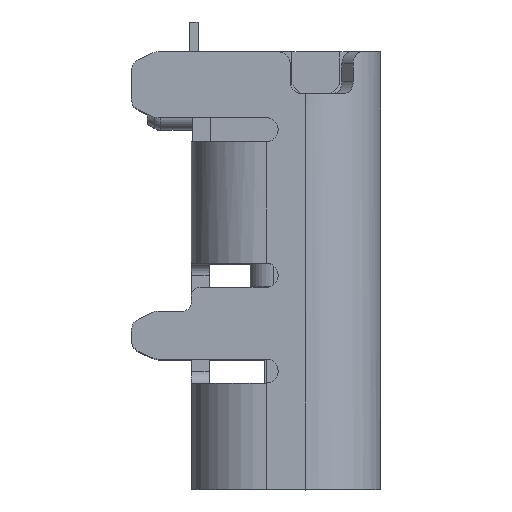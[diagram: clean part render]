
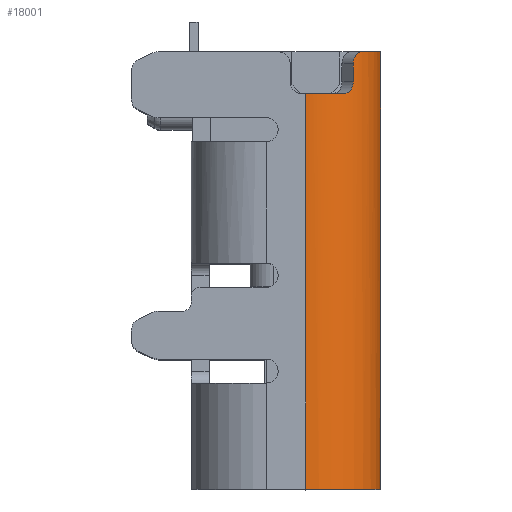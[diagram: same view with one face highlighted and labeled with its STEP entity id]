
A CAD part, top view. The second image highlights one B-rep face of the part: STEP entity #18001.
In plain terms, the highlighted cylindrical face has radius 1.25 mm (diameter 2.5 mm), a partial arc.
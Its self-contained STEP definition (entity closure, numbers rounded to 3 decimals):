
#253 = DIRECTION ( 'NONE',  ( 0.154, 0., 0.988 ) ) ;
#1142 = ORIENTED_EDGE ( 'NONE', *, *, #3837, .F. ) ;
#1143 = EDGE_CURVE ( 'NONE', #15483, #9754, #16775, .T. ) ;
#1598 = CARTESIAN_POINT ( 'NONE',  ( 0.005, 6056937.691, 3.22 ) ) ;
#1630 = CARTESIAN_POINT ( 'NONE',  ( 0.632, 1.8, 4.301 ) ) ;
#2116 = CARTESIAN_POINT ( 'NONE',  ( 0.797, 2.353, 4.187 ) ) ;
#2140 = CARTESIAN_POINT ( 'NONE',  ( 0.005, 1.8, 3.22 ) ) ;
#2415 = VECTOR ( 'NONE', #2492, 1000. ) ;
#2492 = DIRECTION ( 'NONE',  ( 0., -1., 0. ) ) ;
#2605 = CARTESIAN_POINT ( 'NONE',  ( 1.255, 2.5, 3.22 ) ) ;
#2845 = CARTESIAN_POINT ( 'NONE',  ( 0.005, 2.5, 3.22 ) ) ;
#3033 = EDGE_CURVE ( 'NONE', #24334, #22182, #13536, .T. ) ;
#3837 = EDGE_CURVE ( 'NONE', #21232, #20334, #8079, .T. ) ;
#3882 = VERTEX_POINT ( 'NONE', #16661 ) ;
#3942 = CARTESIAN_POINT ( 'NONE',  ( 0.632, 1.8, 4.301 ) ) ;
#3971 = CARTESIAN_POINT ( 'NONE',  ( 0.942, 2.5, 4.048 ) ) ;
#4122 = DIRECTION ( 'NONE',  ( 0., 0., 1. ) ) ;
#4500 = VERTEX_POINT ( 'NONE', #3971 ) ;
#4775 = EDGE_CURVE ( 'NONE', #9754, #3882, #7898, .T. ) ;
#5408 = CARTESIAN_POINT ( 'NONE',  ( 0.678, 1.8, 4.275 ) ) ;
#5454 = DIRECTION ( 'NONE',  ( 0., -1., 0. ) ) ;
#6292 = ORIENTED_EDGE ( 'NONE', *, *, #22032, .T. ) ;
#6588 = EDGE_CURVE ( 'NONE', #19775, #22182, #14802, .T. ) ;
#6762 = AXIS2_PLACEMENT_3D ( 'NONE', #20632, #5454, #7578 ) ;
#6918 = EDGE_LOOP ( 'NONE', ( #14583, #13745, #24587, #1142, #16422, #12311, #18134, #20185, #6292, #13578 ) ) ;
#6952 = DIRECTION ( 'NONE',  ( 0., 0., -1. ) ) ;
#7413 = CIRCLE ( 'NONE', #22912, 1.25 ) ;
#7472 = CARTESIAN_POINT ( 'NONE',  ( 0.005, -4.8, 3.22 ) ) ;
#7578 = DIRECTION ( 'NONE',  ( 0.336, 0., 0.942 ) ) ;
#7668 = CARTESIAN_POINT ( 'NONE',  ( 0.797, 2., 4.187 ) ) ;
#7898 = LINE ( 'NONE', #7668, #19536 ) ;
#8079 = LINE ( 'NONE', #15683, #2415 ) ;
#8216 = DIRECTION ( 'NONE',  ( 0., -1., 0. ) ) ;
#8583 = CYLINDRICAL_SURFACE ( 'NONE', #15373, 1.25 ) ;
#8584 = CARTESIAN_POINT ( 'NONE',  ( 0.198, 1.8, 4.455 ) ) ;
#8821 = B_SPLINE_CURVE_WITH_KNOTS ( 'NONE', 3,
 ( #11938, #2116, #13414, #9829, #20994, #19137 ),
 .UNSPECIFIED., .F., .F.,
 ( 4, 2, 4 ),
 ( 0., 0., 0. ),
 .UNSPECIFIED. ) ;
#9754 = VERTEX_POINT ( 'NONE', #10390 ) ;
#9829 = CARTESIAN_POINT ( 'NONE',  ( 0.869, 2.479, 4.124 ) ) ;
#10313 = DIRECTION ( 'NONE',  ( 1., 0., 0. ) ) ;
#10323 = CIRCLE ( 'NONE', #19851, 1.25 ) ;
#10390 = CARTESIAN_POINT ( 'NONE',  ( 0.797, 2., 4.187 ) ) ;
#10585 = CARTESIAN_POINT ( 'NONE',  ( 0.005, 1.8, 4.47 ) ) ;
#10788 = CIRCLE ( 'NONE', #17530, 1.25 ) ;
#11017 = EDGE_CURVE ( 'NONE', #21232, #4500, #10323, .T. ) ;
#11336 = DIRECTION ( 'NONE',  ( 0., 1., 0. ) ) ;
#11938 = CARTESIAN_POINT ( 'NONE',  ( 0.797, 2.3, 4.187 ) ) ;
#12069 = CARTESIAN_POINT ( 'NONE',  ( 1.255, -4.8, 3.22 ) ) ;
#12311 = ORIENTED_EDGE ( 'NONE', *, *, #20252, .F. ) ;
#12726 = VERTEX_POINT ( 'NONE', #22522 ) ;
#12727 = CARTESIAN_POINT ( 'NONE',  ( 0.005, -4.8, 4.47 ) ) ;
#12729 = CIRCLE ( 'NONE', #6762, 1.25 ) ;
#12895 = CARTESIAN_POINT ( 'NONE',  ( 0.78, 1.895, 4.201 ) ) ;
#13371 = CARTESIAN_POINT ( 'NONE',  ( 0.797, 2., 4.187 ) ) ;
#13414 = CARTESIAN_POINT ( 'NONE',  ( 0.814, 2.405, 4.174 ) ) ;
#13536 = CIRCLE ( 'NONE', #22263, 1.25 ) ;
#13578 = ORIENTED_EDGE ( 'NONE', *, *, #20088, .T. ) ;
#13728 = CARTESIAN_POINT ( 'NONE',  ( 0.005, 1.8, 3.22 ) ) ;
#13745 = ORIENTED_EDGE ( 'NONE', *, *, #6588, .F. ) ;
#14318 = DIRECTION ( 'NONE',  ( 0., 1., 0. ) ) ;
#14583 = ORIENTED_EDGE ( 'NONE', *, *, #3033, .T. ) ;
#14665 = DIRECTION ( 'NONE',  ( 0., -1., 0. ) ) ;
#14802 = LINE ( 'NONE', #22373, #19645 ) ;
#15267 = CARTESIAN_POINT ( 'NONE',  ( 0.797, 1.947, 4.187 ) ) ;
#15373 = AXIS2_PLACEMENT_3D ( 'NONE', #1598, #14665, #6952 ) ;
#15483 = VERTEX_POINT ( 'NONE', #1630 ) ;
#15683 = CARTESIAN_POINT ( 'NONE',  ( 1.255, 2.5, 3.22 ) ) ;
#16422 = ORIENTED_EDGE ( 'NONE', *, *, #11017, .T. ) ;
#16661 = CARTESIAN_POINT ( 'NONE',  ( 0.797, 2.3, 4.187 ) ) ;
#16775 = B_SPLINE_CURVE_WITH_KNOTS ( 'NONE', 3,
 ( #3942, #5408, #20481, #12895, #15267, #13371 ),
 .UNSPECIFIED., .F., .F.,
 ( 4, 2, 4 ),
 ( 0., 0., 0. ),
 .UNSPECIFIED. ) ;
#17530 = AXIS2_PLACEMENT_3D ( 'NONE', #13728, #21300, #19084 ) ;
#17763 = DIRECTION ( 'NONE',  ( 0., -1., 0. ) ) ;
#17818 = EDGE_CURVE ( 'NONE', #19775, #20334, #7413, .T. ) ;
#17913 = FACE_OUTER_BOUND ( 'NONE', #6918, .T. ) ;
#18001 = ADVANCED_FACE ( 'NONE', ( #17913 ), #8583, .T. ) ;
#18134 = ORIENTED_EDGE ( 'NONE', *, *, #4775, .F. ) ;
#19084 = DIRECTION ( 'NONE',  ( 0.502, 0., 0.865 ) ) ;
#19108 = DIRECTION ( 'NONE',  ( 0., 1., 0. ) ) ;
#19137 = CARTESIAN_POINT ( 'NONE',  ( 0.942, 2.5, 4.048 ) ) ;
#19536 = VECTOR ( 'NONE', #19108, 1000. ) ;
#19645 = VECTOR ( 'NONE', #14318, 1000. ) ;
#19775 = VERTEX_POINT ( 'NONE', #12727 ) ;
#19851 = AXIS2_PLACEMENT_3D ( 'NONE', #2845, #17763, #10313 ) ;
#20088 = EDGE_CURVE ( 'NONE', #12726, #24334, #12729, .T. ) ;
#20185 = ORIENTED_EDGE ( 'NONE', *, *, #1143, .F. ) ;
#20252 = EDGE_CURVE ( 'NONE', #3882, #4500, #8821, .T. ) ;
#20334 = VERTEX_POINT ( 'NONE', #12069 ) ;
#20481 = CARTESIAN_POINT ( 'NONE',  ( 0.721, 1.821, 4.245 ) ) ;
#20632 = CARTESIAN_POINT ( 'NONE',  ( 0.005, 1.8, 3.22 ) ) ;
#20994 = CARTESIAN_POINT ( 'NONE',  ( 0.907, 2.5, 4.087 ) ) ;
#21232 = VERTEX_POINT ( 'NONE', #2605 ) ;
#21300 = DIRECTION ( 'NONE',  ( 0., -1., 0. ) ) ;
#22032 = EDGE_CURVE ( 'NONE', #15483, #12726, #10788, .T. ) ;
#22182 = VERTEX_POINT ( 'NONE', #10585 ) ;
#22263 = AXIS2_PLACEMENT_3D ( 'NONE', #2140, #8216, #253 ) ;
#22373 = CARTESIAN_POINT ( 'NONE',  ( 0.005, -4.8, 4.47 ) ) ;
#22522 = CARTESIAN_POINT ( 'NONE',  ( 0.425, 1.8, 4.397 ) ) ;
#22912 = AXIS2_PLACEMENT_3D ( 'NONE', #7472, #11336, #4122 ) ;
#24334 = VERTEX_POINT ( 'NONE', #8584 ) ;
#24587 = ORIENTED_EDGE ( 'NONE', *, *, #17818, .T. ) ;
